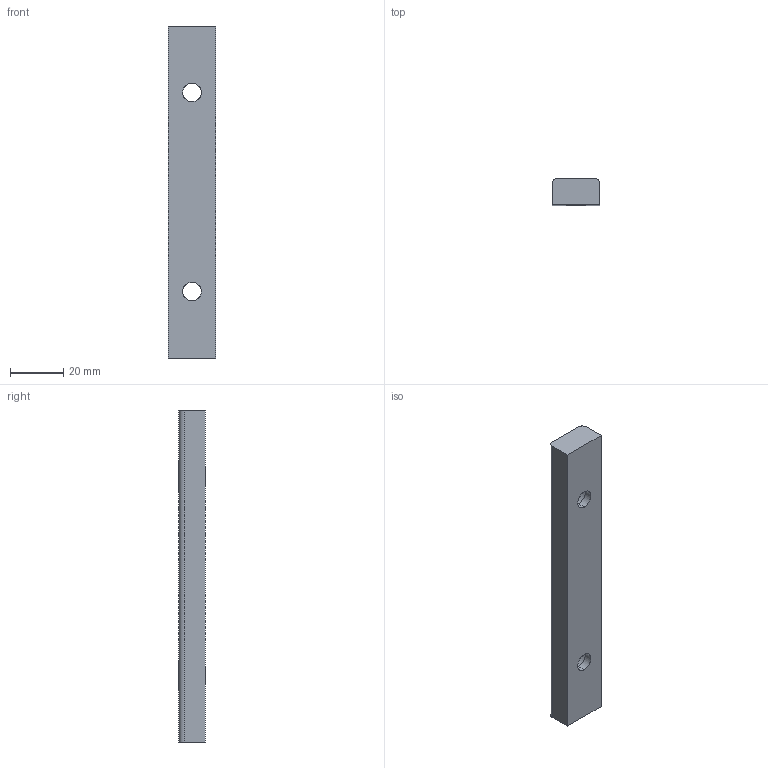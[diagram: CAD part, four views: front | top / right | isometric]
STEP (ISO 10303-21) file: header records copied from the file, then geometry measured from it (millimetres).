
FILE_DESCRIPTION(('CATIA V5 STEP Exchange'),'2;1');
FILE_NAME('C:\Users\Utente\Desktop\3D files A606\A606-018-125.stp','2020-04-13T18:08:13+00:00',('none'),('none'),'CATIA Version 5 Release 20 GA (IN-10)','CATIA V5 STEP AP203','none');
FILE_SCHEMA(('CONFIG_CONTROL_DESIGN'));
Length unit declared in the file: millimetre
Products named in the file (1): Noname
Bounding box: 18 x 10 x 125 mm (x, y, z)
Surface area: 7603.8 mm2 (no closed solid volume)
Topology: 0 solids, 14 shells, 18 faces, 76 edges, 68 vertices
Faces by surface type: cylinder 10, extrusion 8
Entity records: 1044 total; most frequent: CARTESIAN_POINT 415, DIRECTION 84, ORIENTED_EDGE 84, EDGE_CURVE 76, VERTEX_POINT 68, VECTOR 44, LINE 36, AXIS2_PLACEMENT_3D 31
